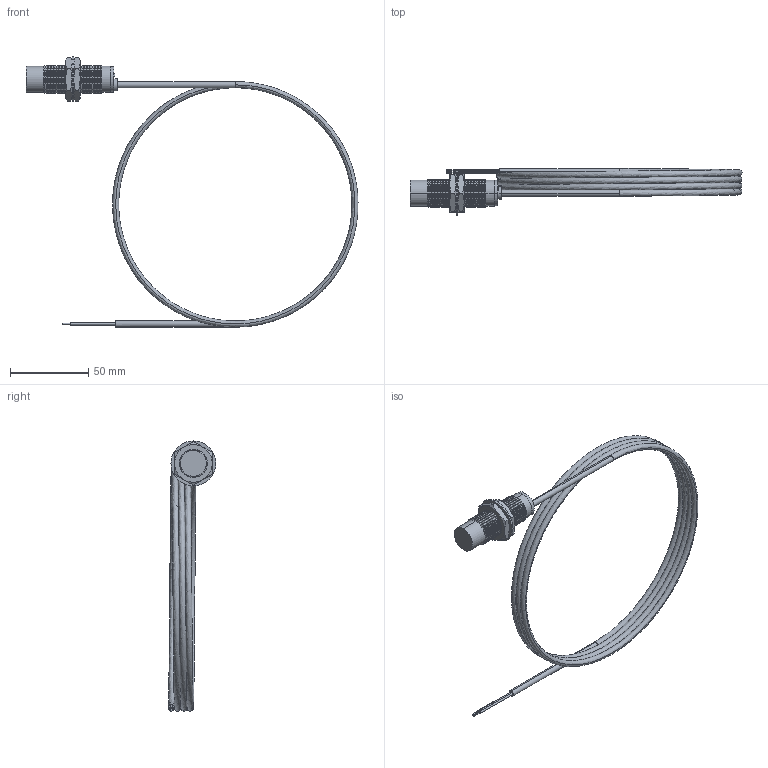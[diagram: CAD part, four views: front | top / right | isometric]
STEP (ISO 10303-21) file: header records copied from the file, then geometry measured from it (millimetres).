
FILE_DESCRIPTION (( 'STEP AP203' ), '1' );
FILE_NAME ('90-29417-074.STEP', '2016-04-29T22:00:51', ( 'Sam' ), ( 'Spade' ), 'SwSTEP 2.0', 'SolidWorks 2002296', '' );
FILE_SCHEMA (( 'CONFIG_CONTROL_DESIGN' ));
Length unit declared in the file: inch
Products named in the file (14): 90-29417-074; Imported7; Imported6; Imported5; Imported4; Imported10; Imported9; Imported8; Imported3; Imported2; Imported1; Imported12; Imported11; Imported
Assembly tree (13 placements, depth 2):
  90-29417-074
    Imported8
    Imported6
    Imported
    Imported10
    Imported4
    Imported5
    Imported1
    Imported9
    Imported7
    Imported11
    Imported2
    Imported12
    Imported3
Bounding box: 211.51 x 30.32 x 172.11 mm (x, y, z)
Volume: 38125.9 mm3; surface area: 32027.2 mm2
Topology: 13 solids, 13 shells, 422 faces, 915 edges, 518 vertices
Faces by surface type: cone 207, cylinder 132, plane 79, bspline 4
Entity records: 13898 total; most frequent: CARTESIAN_POINT 3084, DIRECTION 2132, ORIENTED_EDGE 1826, EDGE_CURVE 913, AXIS2_PLACEMENT_3D 848, VERTEX_POINT 518, LINE 436, VECTOR 436
